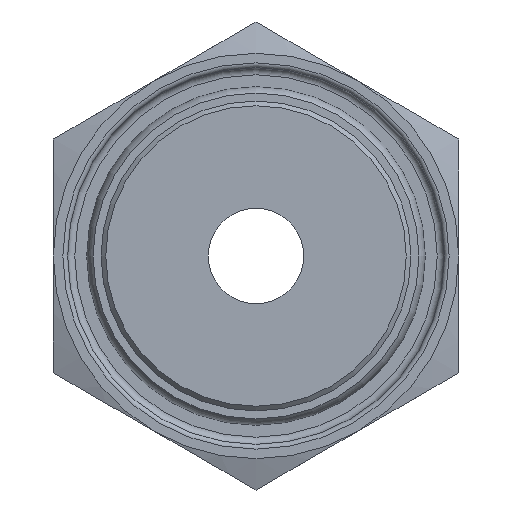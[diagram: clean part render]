
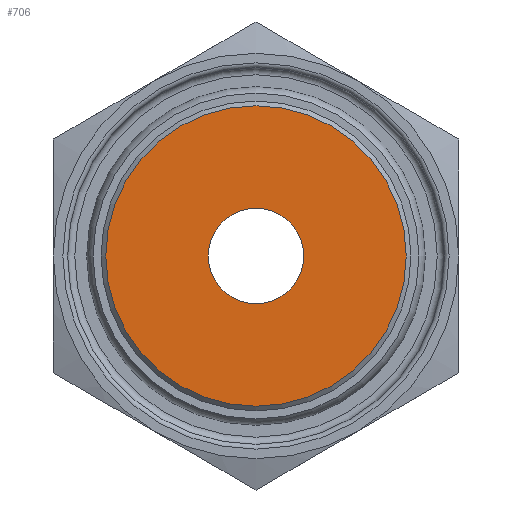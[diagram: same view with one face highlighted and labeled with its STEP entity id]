
A CAD part, front view. The second image highlights one B-rep face of the part: STEP entity #706.
In plain terms, the highlighted planar face has unit normal (0, -1, 0).
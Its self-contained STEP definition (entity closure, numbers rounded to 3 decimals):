
#72=FACE_BOUND('',#175,.T.);
#84=PLANE('',#861);
#121=FACE_OUTER_BOUND('',#174,.T.);
#174=EDGE_LOOP('',(#546));
#175=EDGE_LOOP('',(#547));
#256=CIRCLE('',#814,2.);
#288=CIRCLE('',#860,6.3);
#314=VERTEX_POINT('',#1178);
#341=VERTEX_POINT('',#1257);
#377=EDGE_CURVE('',#314,#314,#256,.T.);
#416=EDGE_CURVE('',#341,#341,#288,.T.);
#546=ORIENTED_EDGE('',*,*,#416,.F.);
#547=ORIENTED_EDGE('',*,*,#377,.T.);
#706=ADVANCED_FACE('',(#121,#72),#84,.T.);
#814=AXIS2_PLACEMENT_3D('',#1179,#932,#933);
#860=AXIS2_PLACEMENT_3D('',#1259,#1031,#1032);
#861=AXIS2_PLACEMENT_3D('',#1260,#1033,#1034);
#932=DIRECTION('center_axis',(0.,1.,0.));
#933=DIRECTION('ref_axis',(1.,0.,0.));
#1031=DIRECTION('center_axis',(0.,1.,0.));
#1032=DIRECTION('ref_axis',(1.,0.,0.));
#1033=DIRECTION('center_axis',(0.,-1.,0.));
#1034=DIRECTION('ref_axis',(0.,0.,-1.));
#1178=CARTESIAN_POINT('',(-2.,-8.,0.));
#1179=CARTESIAN_POINT('Origin',(0.,-8.,0.));
#1257=CARTESIAN_POINT('',(-6.3,-8.,0.));
#1259=CARTESIAN_POINT('Origin',(0.,-8.,0.));
#1260=CARTESIAN_POINT('Origin',(-6.5,-8.,0.));
